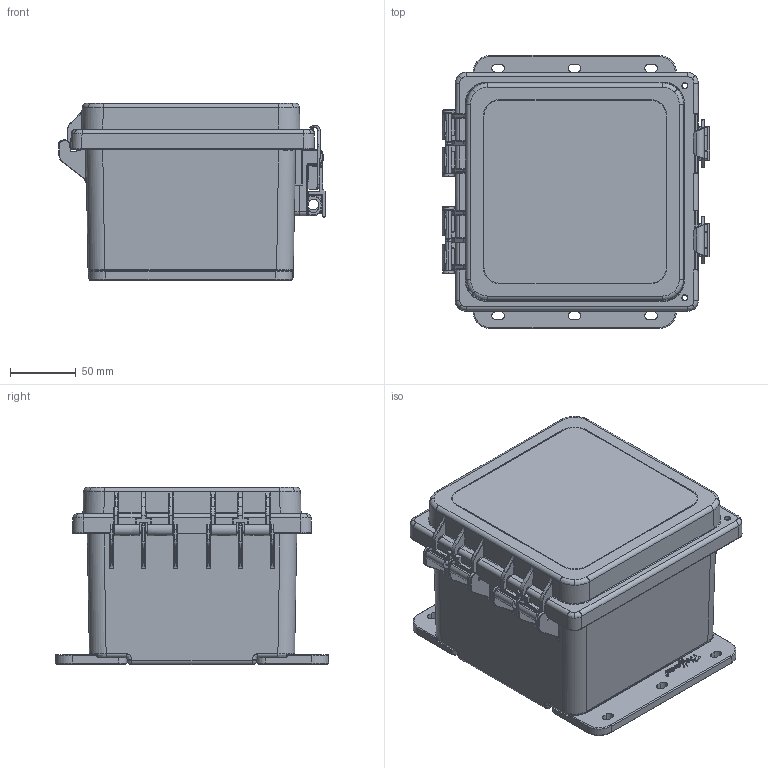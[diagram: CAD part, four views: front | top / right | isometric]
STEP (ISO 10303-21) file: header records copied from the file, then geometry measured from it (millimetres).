
FILE_DESCRIPTION (( 'STEP AP203' ), '1' );
FILE_NAME ('a664phc.STEP', '2019-07-12T19:38:04', ( '' ), ( '' ), 'SwSTEP 2.0', 'SolidWorks 2016', '' );
FILE_SCHEMA (( 'CONFIG_CONTROL_DESIGN' ));
Length unit declared in the file: inch
Products named in the file (8): 87925615_87925615; 87925634_87925634; 87934975_87934975; 87934973_87934973; 87934971_87934971; 87938571_87938571; a664phc; 87925594_87925594
Assembly tree (9 placements, depth 3):
  a664phc
    87925594_87925594
    87925615_87925615
    87925634_87925634  x2
    87938571_87938571  x2
      87934975_87934975
      87934973_87934973
      87934971_87934971
Bounding box: 202.85 x 206.98 x 134.33 mm (x, y, z)
Volume: 629877.8 mm3; surface area: 414860.6 mm2
Topology: 12 solids, 12 shells, 4827 faces, 12367 edges, 7346 vertices
Faces by surface type: cylinder 1499, bspline 1333, plane 1280, sphere 331, torus 289, cone 95
Entity records: 140817 total; most frequent: CARTESIAN_POINT 64476, ORIENTED_EDGE 17438, DIRECTION 13396, EDGE_CURVE 8719, VERTEX_POINT 5318, AXIS2_PLACEMENT_3D 4745, VECTOR 3906, LINE 3906
